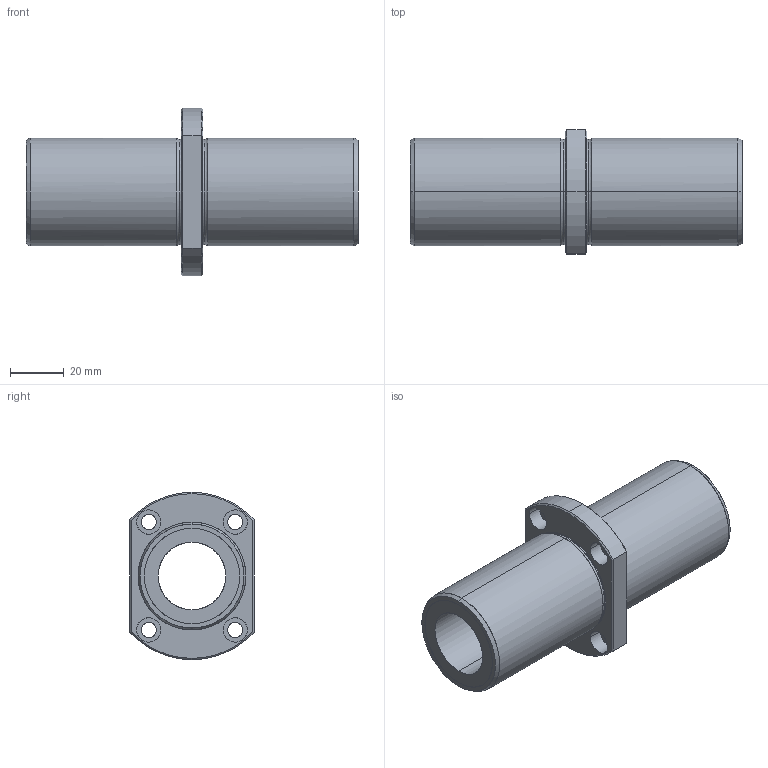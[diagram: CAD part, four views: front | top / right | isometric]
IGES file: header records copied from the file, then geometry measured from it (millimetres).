
Global section: file name: No Iges File Name specified; native system: AutoDesk Inventor R10; preprocessor: AutoDesk Inventor Iges Exporter R10; author: No Author specified; organization: No Organization specified; date: 20101216.154252; units: millimetre
Bounding box: 123 x 46 x 62 mm (x, y, z)
Surface area: 30229.6 mm2 (no closed solid volume)
Topology: 0 solids, 0 shells, 66 faces, 416 edges, 416 vertices
Faces by surface type: bspline 66
